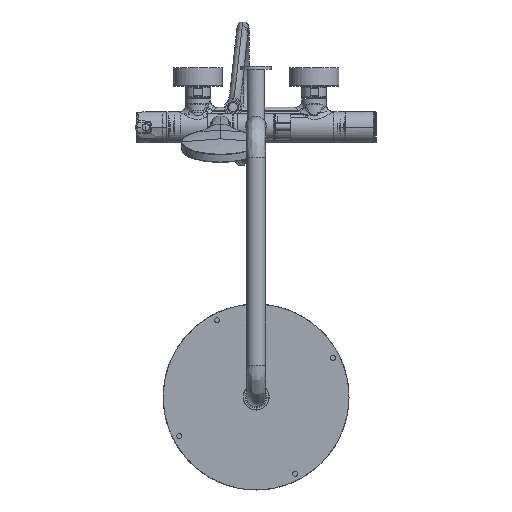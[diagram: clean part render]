
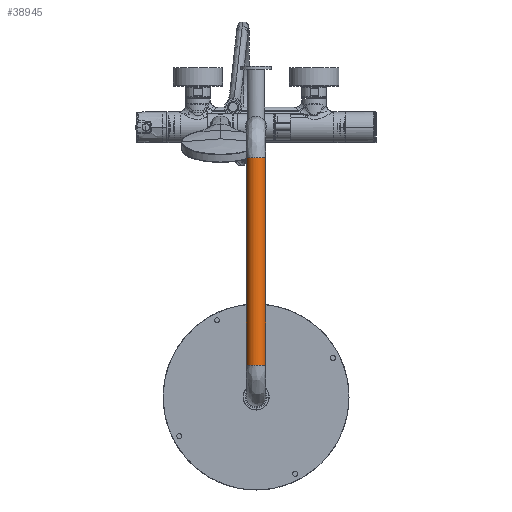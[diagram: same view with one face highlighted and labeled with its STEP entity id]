
A CAD part, top view. The second image highlights one B-rep face of the part: STEP entity #38945.
In plain terms, the highlighted cylindrical face has radius 12.5 mm (diameter 25 mm), a full revolution.
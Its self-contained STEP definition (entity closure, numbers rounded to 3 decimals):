
#38880=CARTESIAN_POINT('',(12.5,-41.0,1125.5));
#38881=VERTEX_POINT('',#38880);
#38889=CARTESIAN_POINT('',(-12.5,-41.0,1125.5));
#38890=VERTEX_POINT('',#38889);
#38891=CARTESIAN_POINT('',(0.,-41.0,1125.5));
#38892=DIRECTION('',(0.0,1.0,0.));
#38893=DIRECTION('',(1.0,0.0,0.0));
#38894=AXIS2_PLACEMENT_3D('',#38891,#38892,#38893);
#38895=CIRCLE('',#38894,12.5);
#38896=EDGE_CURVE('',#38881,#38890,#38895,.T.);
#38898=CARTESIAN_POINT('',(0.,-41.0,1125.5));
#38899=DIRECTION('',(0.0,1.0,0.));
#38900=DIRECTION('',(1.0,0.0,0.0));
#38901=AXIS2_PLACEMENT_3D('',#38898,#38899,#38900);
#38902=CIRCLE('',#38901,12.5);
#38903=EDGE_CURVE('',#38890,#38881,#38902,.T.);
#38911=CARTESIAN_POINT('',(0.,-41.0,1125.5));
#38912=DIRECTION('',(0.0,1.0,0.));
#38913=DIRECTION('',(1.0,0.0,0.0));
#38914=AXIS2_PLACEMENT_3D('',#38911,#38912,#38913);
#38915=CYLINDRICAL_SURFACE('',#38914,12.5);
#38916=CARTESIAN_POINT('',(12.5,-309.0,1125.5));
#38917=VERTEX_POINT('',#38916);
#38918=CARTESIAN_POINT('',(12.5,-41.0,1125.5));
#38919=DIRECTION('',(0.0,-1.0,0.0));
#38920=VECTOR('',#38919,268.0);
#38921=LINE('',#38918,#38920);
#38922=EDGE_CURVE('',#38881,#38917,#38921,.T.);
#38923=ORIENTED_EDGE('',*,*,#38922,.T.);
#38924=CARTESIAN_POINT('',(-12.5,-309.0,1125.5));
#38925=VERTEX_POINT('',#38924);
#38926=CARTESIAN_POINT('',(0.,-309.0,1125.5));
#38927=DIRECTION('',(0.0,1.0,0.));
#38928=DIRECTION('',(1.0,0.0,0.0));
#38929=AXIS2_PLACEMENT_3D('',#38926,#38927,#38928);
#38930=CIRCLE('',#38929,12.5);
#38931=EDGE_CURVE('',#38917,#38925,#38930,.T.);
#38932=ORIENTED_EDGE('',*,*,#38931,.T.);
#38933=CARTESIAN_POINT('',(0.,-309.0,1125.5));
#38934=DIRECTION('',(0.0,1.0,0.));
#38935=DIRECTION('',(1.0,0.0,0.0));
#38936=AXIS2_PLACEMENT_3D('',#38933,#38934,#38935);
#38937=CIRCLE('',#38936,12.5);
#38938=EDGE_CURVE('',#38925,#38917,#38937,.T.);
#38939=ORIENTED_EDGE('',*,*,#38938,.T.);
#38940=ORIENTED_EDGE('',*,*,#38922,.F.);
#38941=ORIENTED_EDGE('',*,*,#38903,.F.);
#38942=ORIENTED_EDGE('',*,*,#38896,.F.);
#38943=EDGE_LOOP('',(#38923,#38932,#38939,#38940,#38941,#38942));
#38944=FACE_OUTER_BOUND('',#38943,.T.);
#38945=ADVANCED_FACE('',(#38944),#38915,.T.);
